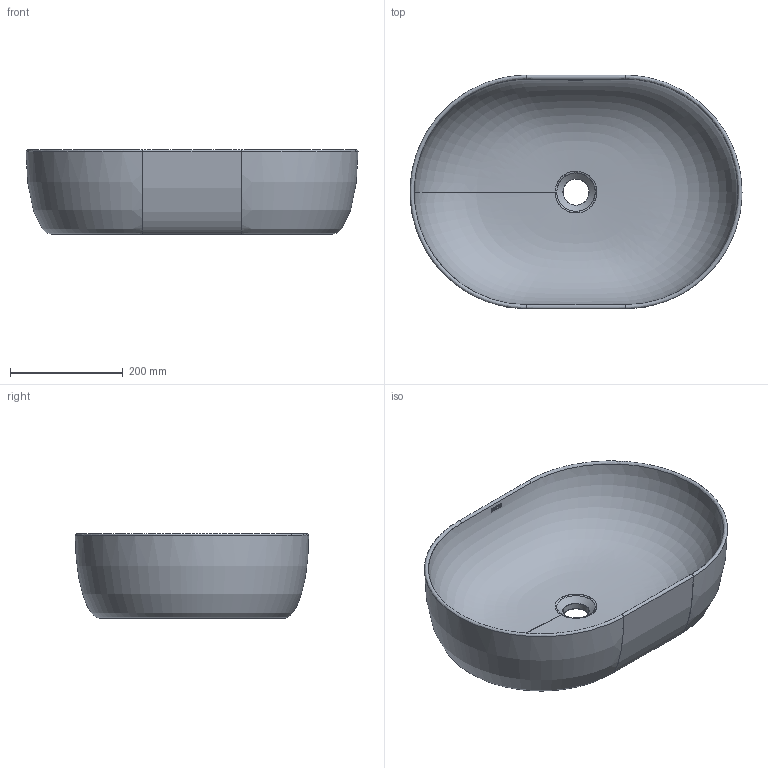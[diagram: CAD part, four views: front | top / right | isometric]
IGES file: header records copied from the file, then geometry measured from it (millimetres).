
Global section: file name: D:\Renovando Conceptos\Trabajos Varios\BathCo\47 Biblioteca Lavabos 3D\4037 Toulouse\4037_Toulouse.igs; native system: Rhinoceros ( Feb 26 2015 ); preprocessor: Trout Lake IGES 012 Feb 26 2015; date: 201109.063258; units: millimetre
Bounding box: 589.99 x 415 x 150.01 mm (x, y, z)
Surface area: 717030.9 mm2 (no closed solid volume)
Topology: 0 solids, 0 shells, 103 faces, 783 edges, 771 vertices
Faces by surface type: bspline 103
